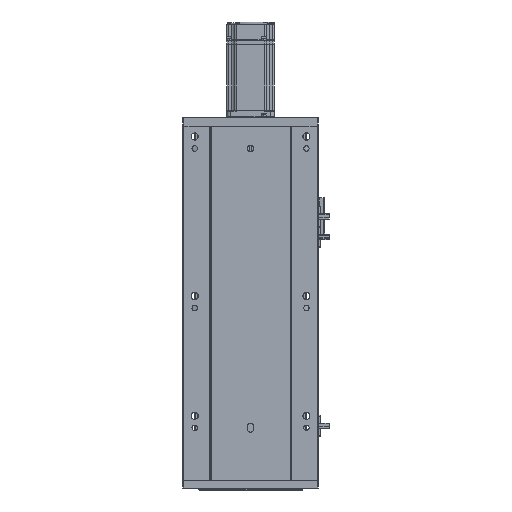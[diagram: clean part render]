
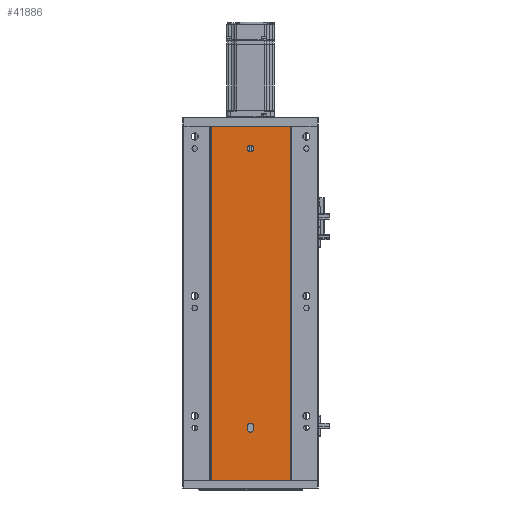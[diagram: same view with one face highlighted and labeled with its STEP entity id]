
A CAD part, front view. The second image highlights one B-rep face of the part: STEP entity #41886.
In plain terms, the highlighted planar face has unit normal (0, -1, 0).
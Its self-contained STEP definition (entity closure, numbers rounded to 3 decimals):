
#123 = CARTESIAN_POINT ( 'NONE',  ( 140.47, 79.476, 64.5 ) ) ;
#813 = EDGE_CURVE ( 'NONE', #1434, #29609, #52748, .T. ) ;
#1101 = DIRECTION ( 'NONE',  ( 0., 0., 1. ) ) ;
#1434 = VERTEX_POINT ( 'NONE', #59302 ) ;
#3494 = CARTESIAN_POINT ( 'NONE',  ( 86.97, 79.476, 148. ) ) ;
#3568 = PLANE ( 'NONE',  #22860 ) ;
#4226 = VECTOR ( 'NONE', #47402, 1000. ) ;
#6348 = VERTEX_POINT ( 'NONE', #24003 ) ;
#6885 = LINE ( 'NONE', #60080, #22228 ) ;
#6991 = AXIS2_PLACEMENT_3D ( 'NONE', #53709, #49189, #39536 ) ;
#7181 = CARTESIAN_POINT ( 'NONE',  ( 185.97, 79.476, 0. ) ) ;
#7680 = CARTESIAN_POINT ( 'NONE',  ( 86.97, 79.476, 444. ) ) ;
#8944 = DIRECTION ( 'NONE',  ( 0., -1., 0. ) ) ;
#8968 = EDGE_CURVE ( 'NONE', #57070, #6348, #15589, .T. ) ;
#10020 = CIRCLE ( 'NONE', #58115, 4. ) ;
#10346 = ORIENTED_EDGE ( 'NONE', *, *, #55648, .T. ) ;
#10763 = CARTESIAN_POINT ( 'NONE',  ( 86.97, 79.476, 444. ) ) ;
#12600 = EDGE_LOOP ( 'NONE', ( #57907, #51555, #14942, #10346 ) ) ;
#12813 = DIRECTION ( 'NONE',  ( 0., 0., -1. ) ) ;
#13062 = B_SPLINE_CURVE_WITH_KNOTS ( 'NONE', 3,
 ( #32053, #56060, #36522, #7181 ),
 .UNSPECIFIED., .F., .F.,
 ( 4, 4 ),
 ( 0., 1. ),
 .UNSPECIFIED. ) ;
#14097 = CARTESIAN_POINT ( 'NONE',  ( 132.47, 79.476, 64.5 ) ) ;
#14942 = ORIENTED_EDGE ( 'NONE', *, *, #49556, .F. ) ;
#15293 = EDGE_CURVE ( 'NONE', #22830, #54810, #6885, .T. ) ;
#15427 = FACE_BOUND ( 'NONE', #55217, .T. ) ;
#15589 = CIRCLE ( 'NONE', #28818, 4. ) ;
#15960 = DIRECTION ( 'NONE',  ( 0., 0., -1. ) ) ;
#17576 = CARTESIAN_POINT ( 'NONE',  ( 136.47, 79.476, 416. ) ) ;
#19259 = FACE_BOUND ( 'NONE', #21361, .T. ) ;
#19266 = VERTEX_POINT ( 'NONE', #20695 ) ;
#20695 = CARTESIAN_POINT ( 'NONE',  ( 86.97, 79.476, 0. ) ) ;
#21009 = EDGE_CURVE ( 'NONE', #6348, #57070, #10020, .T. ) ;
#21361 = EDGE_LOOP ( 'NONE', ( #53000, #56895, #56122, #31239, #50126 ) ) ;
#22228 = VECTOR ( 'NONE', #1101, 1000. ) ;
#22830 = VERTEX_POINT ( 'NONE', #123 ) ;
#22860 = AXIS2_PLACEMENT_3D ( 'NONE', #37846, #52635, #62561 ) ;
#23698 = ORIENTED_EDGE ( 'NONE', *, *, #21009, .F. ) ;
#24003 = CARTESIAN_POINT ( 'NONE',  ( 136.47, 79.476, 420. ) ) ;
#24387 = CARTESIAN_POINT ( 'NONE',  ( 136.47, 79.476, 416. ) ) ;
#26012 = VECTOR ( 'NONE', #34890, 1000. ) ;
#26184 = EDGE_CURVE ( 'NONE', #59144, #22830, #27793, .T. ) ;
#27793 = CIRCLE ( 'NONE', #6991, 4. ) ;
#27875 = DIRECTION ( 'NONE',  ( 0., -1., 0. ) ) ;
#28818 = AXIS2_PLACEMENT_3D ( 'NONE', #24387, #8944, #43219 ) ;
#29153 = CARTESIAN_POINT ( 'NONE',  ( 140.47, 79.476, 67.5 ) ) ;
#29609 = VERTEX_POINT ( 'NONE', #14097 ) ;
#30064 = DIRECTION ( 'NONE',  ( 0., -1., 0. ) ) ;
#30324 = LINE ( 'NONE', #33312, #4226 ) ;
#30703 = EDGE_CURVE ( 'NONE', #29609, #59144, #41435, .T. ) ;
#31239 = ORIENTED_EDGE ( 'NONE', *, *, #15293, .F. ) ;
#32053 = CARTESIAN_POINT ( 'NONE',  ( 185.97, 79.476, 444. ) ) ;
#33312 = CARTESIAN_POINT ( 'NONE',  ( 0., 79.476, 444. ) ) ;
#34835 = DIRECTION ( 'NONE',  ( 0., 0., -1. ) ) ;
#34890 = DIRECTION ( 'NONE',  ( 1., 0., 0. ) ) ;
#35357 = FACE_OUTER_BOUND ( 'NONE', #12600, .T. ) ;
#36073 = EDGE_CURVE ( 'NONE', #54810, #1434, #42910, .T. ) ;
#36145 = CARTESIAN_POINT ( 'NONE',  ( 185.97, 79.476, 444. ) ) ;
#36522 = CARTESIAN_POINT ( 'NONE',  ( 185.97, 79.476, 148. ) ) ;
#36889 = AXIS2_PLACEMENT_3D ( 'NONE', #45262, #57401, #34835 ) ;
#37846 = CARTESIAN_POINT ( 'NONE',  ( 0., 79.476, 444. ) ) ;
#39286 = CARTESIAN_POINT ( 'NONE',  ( 136.47, 79.476, 412. ) ) ;
#39536 = DIRECTION ( 'NONE',  ( 0., 0., -1. ) ) ;
#39675 = VECTOR ( 'NONE', #15960, 1000. ) ;
#41435 = CIRCLE ( 'NONE', #48991, 4. ) ;
#41886 = ADVANCED_FACE ( 'NONE', ( #19259, #15427, #35357 ), #3568, .F. ) ;
#42910 = CIRCLE ( 'NONE', #36889, 4. ) ;
#43068 = VERTEX_POINT ( 'NONE', #55870 ) ;
#43219 = DIRECTION ( 'NONE',  ( 0., 0., -1. ) ) ;
#44078 = VERTEX_POINT ( 'NONE', #7680 ) ;
#44615 = EDGE_CURVE ( 'NONE', #53281, #43068, #13062, .T. ) ;
#44672 = ORIENTED_EDGE ( 'NONE', *, *, #8968, .F. ) ;
#45262 = CARTESIAN_POINT ( 'NONE',  ( 136.47, 79.476, 67.5 ) ) ;
#47402 = DIRECTION ( 'NONE',  ( 1., 0., 0. ) ) ;
#48599 = CARTESIAN_POINT ( 'NONE',  ( 0., 79.476, 0. ) ) ;
#48991 = AXIS2_PLACEMENT_3D ( 'NONE', #54665, #30064, #59009 ) ;
#49189 = DIRECTION ( 'NONE',  ( 0., -1., 0. ) ) ;
#49556 = EDGE_CURVE ( 'NONE', #44078, #53281, #30324, .T. ) ;
#50126 = ORIENTED_EDGE ( 'NONE', *, *, #26184, .F. ) ;
#51555 = ORIENTED_EDGE ( 'NONE', *, *, #44615, .F. ) ;
#52635 = DIRECTION ( 'NONE',  ( 0., 1., 0. ) ) ;
#52748 = LINE ( 'NONE', #54754, #39675 ) ;
#53000 = ORIENTED_EDGE ( 'NONE', *, *, #30703, .F. ) ;
#53001 = EDGE_CURVE ( 'NONE', #19266, #43068, #58263, .T. ) ;
#53281 = VERTEX_POINT ( 'NONE', #36145 ) ;
#53709 = CARTESIAN_POINT ( 'NONE',  ( 136.47, 79.476, 64.5 ) ) ;
#53757 = CARTESIAN_POINT ( 'NONE',  ( 136.47, 79.476, 60.5 ) ) ;
#54665 = CARTESIAN_POINT ( 'NONE',  ( 136.47, 79.476, 64.5 ) ) ;
#54754 = CARTESIAN_POINT ( 'NONE',  ( 132.47, 79.476, 67.5 ) ) ;
#54810 = VERTEX_POINT ( 'NONE', #29153 ) ;
#55217 = EDGE_LOOP ( 'NONE', ( #44672, #23698 ) ) ;
#55648 = EDGE_CURVE ( 'NONE', #44078, #19266, #61993, .T. ) ;
#55870 = CARTESIAN_POINT ( 'NONE',  ( 185.97, 79.476, 0. ) ) ;
#56060 = CARTESIAN_POINT ( 'NONE',  ( 185.97, 79.476, 296. ) ) ;
#56122 = ORIENTED_EDGE ( 'NONE', *, *, #36073, .F. ) ;
#56895 = ORIENTED_EDGE ( 'NONE', *, *, #813, .F. ) ;
#57070 = VERTEX_POINT ( 'NONE', #39286 ) ;
#57323 = CARTESIAN_POINT ( 'NONE',  ( 86.97, 79.476, 0. ) ) ;
#57401 = DIRECTION ( 'NONE',  ( 0., -1., 0. ) ) ;
#57907 = ORIENTED_EDGE ( 'NONE', *, *, #53001, .T. ) ;
#58115 = AXIS2_PLACEMENT_3D ( 'NONE', #17576, #27875, #12813 ) ;
#58263 = LINE ( 'NONE', #48599, #26012 ) ;
#59009 = DIRECTION ( 'NONE',  ( 0., 0., -1. ) ) ;
#59144 = VERTEX_POINT ( 'NONE', #53757 ) ;
#59302 = CARTESIAN_POINT ( 'NONE',  ( 132.47, 79.476, 67.5 ) ) ;
#59887 = CARTESIAN_POINT ( 'NONE',  ( 86.97, 79.476, 296. ) ) ;
#60080 = CARTESIAN_POINT ( 'NONE',  ( 140.47, 79.476, 67.5 ) ) ;
#61993 = B_SPLINE_CURVE_WITH_KNOTS ( 'NONE', 3,
 ( #10763, #59887, #3494, #57323 ),
 .UNSPECIFIED., .F., .F.,
 ( 4, 4 ),
 ( 0., 1. ),
 .UNSPECIFIED. ) ;
#62561 = DIRECTION ( 'NONE',  ( 0., 0., 1. ) ) ;
